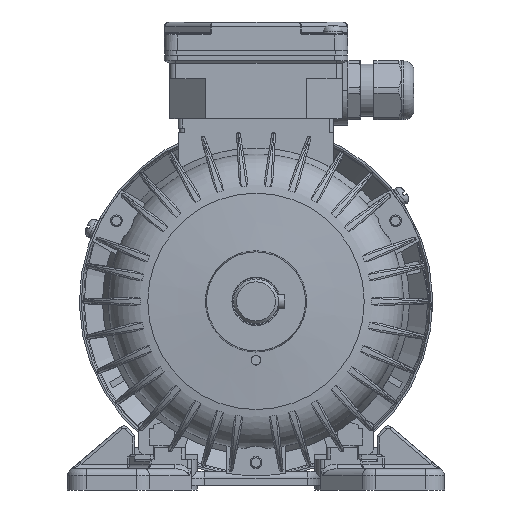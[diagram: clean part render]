
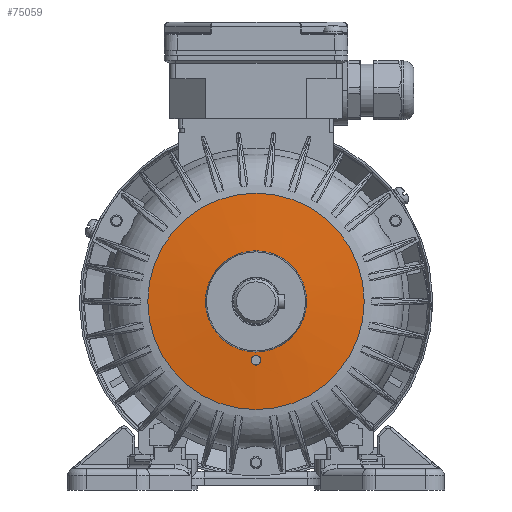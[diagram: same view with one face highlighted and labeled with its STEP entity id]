
A CAD part, left-side view. The second image highlights one B-rep face of the part: STEP entity #75059.
In plain terms, the highlighted conical face has half-angle 85.5 degrees and reference radius 21.472 mm.
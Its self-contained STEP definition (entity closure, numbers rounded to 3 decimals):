
#555=CONICAL_SURFACE('',#79642,21.472,1.492);
#1712=B_SPLINE_CURVE_WITH_KNOTS('',3,(#118859,#118860,#118861,#118862,#118863,
#118864,#118865,#118866,#118867,#118868,#118869),.UNSPECIFIED.,.T.,.F.,
(1,1,1,1,1,1,1,1,1,1,1,1,1,1,1),(-0.005,-0.003,
-0.002,0.,0.002,0.003,
0.005,0.006,0.008,0.009,
0.011,0.013,0.014,0.016,
0.017),.UNSPECIFIED.);
#21950=ORIENTED_EDGE('',*,*,#33511,.F.);
#21951=ORIENTED_EDGE('',*,*,#33175,.T.);
#21952=ORIENTED_EDGE('',*,*,#33512,.T.);
#33175=EDGE_CURVE('',#39927,#39927,#43534,.T.);
#33511=EDGE_CURVE('',#40084,#40084,#43638,.T.);
#33512=EDGE_CURVE('',#40085,#40085,#1712,.T.);
#39927=VERTEX_POINT('',#114994);
#40084=VERTEX_POINT('',#118858);
#40085=VERTEX_POINT('',#118870);
#43534=CIRCLE('',#79366,45.912);
#43638=CIRCLE('',#79643,21.472);
#46590=EDGE_LOOP('',(#21950));
#46591=EDGE_LOOP('',(#21951));
#46592=EDGE_LOOP('',(#21952));
#50170=FACE_BOUND('',#46590,.T.);
#50171=FACE_BOUND('',#46591,.T.);
#50172=FACE_BOUND('',#46592,.T.);
#75059=ADVANCED_FACE('',(#50170,#50171,#50172),#555,.T.);
#79366=AXIS2_PLACEMENT_3D('',#114993,#90519,#90520);
#79642=AXIS2_PLACEMENT_3D('',#118856,#91134,#91135);
#79643=AXIS2_PLACEMENT_3D('',#118857,#91136,#91137);
#90519=DIRECTION('',(-1.,0.,0.));
#90520=DIRECTION('',(0.,0.,-1.));
#91134=DIRECTION('',(1.,0.,0.));
#91135=DIRECTION('',(0.,0.,1.));
#91136=DIRECTION('',(-1.,0.,0.));
#91137=DIRECTION('',(0.,0.,-1.));
#114993=CARTESIAN_POINT('',(-32.577,0.,0.));
#114994=CARTESIAN_POINT('',(-32.577,0.,-45.912));
#118856=CARTESIAN_POINT('',(-34.5,0.,0.));
#118857=CARTESIAN_POINT('',(-34.5,0.,0.));
#118858=CARTESIAN_POINT('',(-34.5,0.,-21.472));
#118859=CARTESIAN_POINT('',(-34.049,-0.01,-27.218));
#118860=CARTESIAN_POINT('',(-34.096,1.564,-26.571));
#118861=CARTESIAN_POINT('',(-34.214,2.215,-25.007));
#118862=CARTESIAN_POINT('',(-34.341,1.576,-23.442));
#118863=CARTESIAN_POINT('',(-34.399,0.01,-22.782));
#118864=CARTESIAN_POINT('',(-34.343,-1.563,-23.429));
#118865=CARTESIAN_POINT('',(-34.215,-2.215,-24.989));
#118866=CARTESIAN_POINT('',(-34.097,-1.577,-26.558));
#118867=CARTESIAN_POINT('',(-34.049,-0.01,-27.218));
#118868=CARTESIAN_POINT('',(-34.096,1.564,-26.571));
#118869=CARTESIAN_POINT('',(-34.214,2.215,-25.007));
#118870=CARTESIAN_POINT('',(-34.108,1.41,-26.418));
